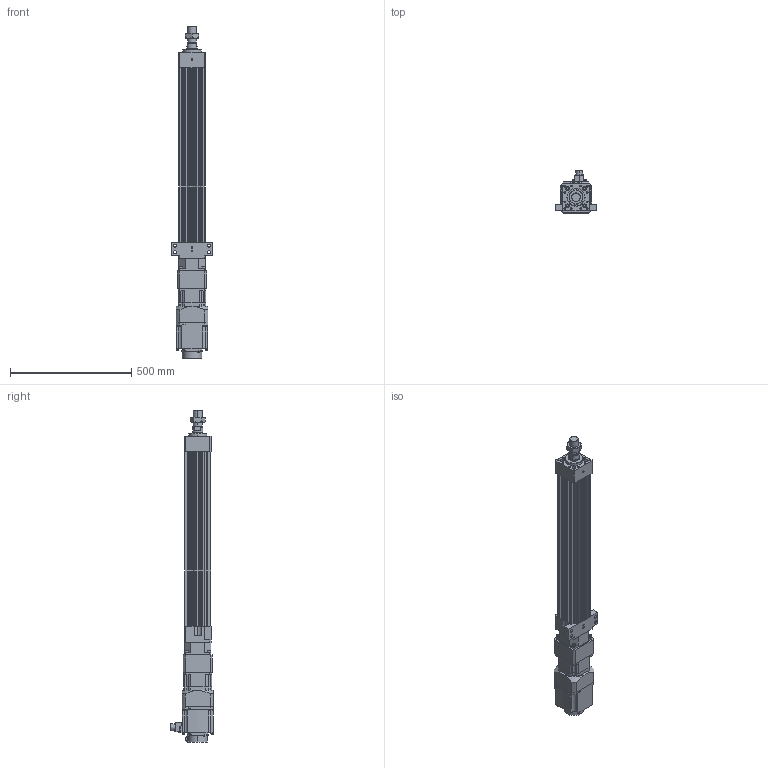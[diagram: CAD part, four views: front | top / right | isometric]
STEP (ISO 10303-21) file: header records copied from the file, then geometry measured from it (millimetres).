
FILE_DESCRIPTION (( 'STEP AP203' ), '1' );
FILE_NAME ('HES110NS(HS)-S550-W015G00-M-FFC.STEP', '2023-01-28T05:25:36', ( 'tms' ), ( '' ), 'SwSTEP 2.0', 'SolidWorks 2013', '' );
FILE_SCHEMA (( 'CONFIG_CONTROL_DESIGN' ));
Length unit declared in the file: millimetre
Products named in the file (8): AB115-003[HG-SR152]; HG-SR152; M36X1.5P; HES110NS(HS)-S550-W015G00-M-FFC; HES110 ROD M ST550; AB1151; HES110-S550-G120-FFC; P0401400706
Assembly tree (7 placements, depth 3):
  HES110NS(HS)-S550-W015G00-M-FFC
    HES110-S550-G120-FFC
    HES110 ROD M ST550
    M36X1.5P
    AB115-003[HG-SR152]
      AB1151
      P0401400706
    HG-SR152
Bounding box: 170 x 177.49 x 1371.5 mm (x, y, z)
Volume: 8781969.9 mm3; surface area: 1246519 mm2
Topology: 4 solids, 15 shells, 1222 faces, 3083 edges, 1988 vertices
Faces by surface type: plane 557, cylinder 549, cone 104, bspline 8, torus 4
Entity records: 38313 total; most frequent: CARTESIAN_POINT 7246, DIRECTION 6648, ORIENTED_EDGE 6070, EDGE_CURVE 3045, AXIS2_PLACEMENT_3D 2450, VERTEX_POINT 1988, VECTOR 1748, LINE 1748
